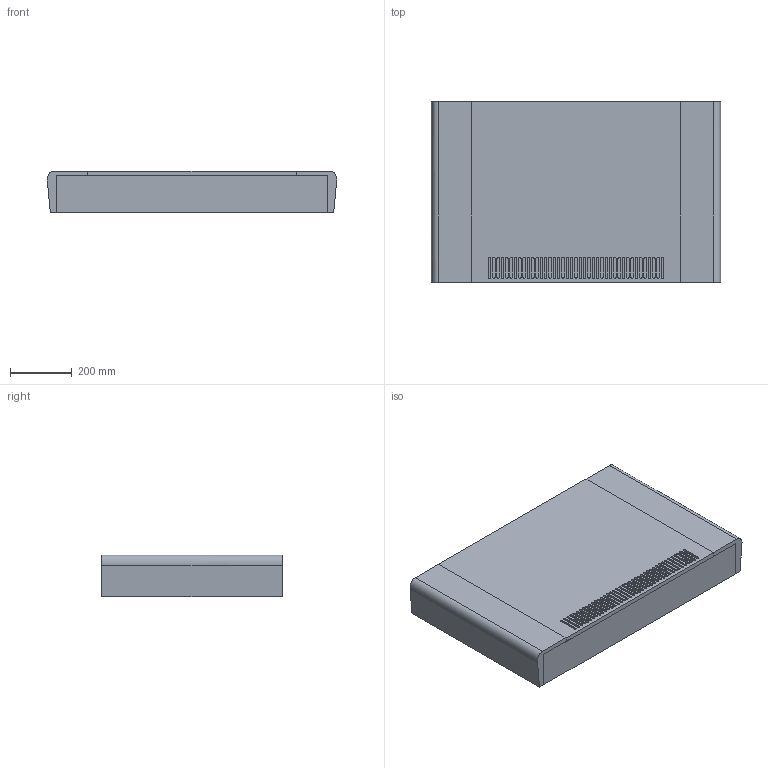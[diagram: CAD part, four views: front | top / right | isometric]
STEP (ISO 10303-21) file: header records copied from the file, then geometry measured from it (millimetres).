
FILE_DESCRIPTION (( 'STEP AP214' ), '1' );
FILE_NAME ('PFWSL_round_model02_4-pipe_v2.STEP', '2024-11-11T13:48:48', ( '' ), ( '' ), 'SwSTEP 2.0', 'SolidWorks 2023', '' );
FILE_SCHEMA (( 'AUTOMOTIVE_DESIGN' ));
Length unit declared in the file: inch
Products named in the file (1): PFWSL_round_model02_4-pipe_v2
Bounding box: 935 x 582.61 x 134.94 mm (x, y, z)
Volume: 52013157.3 mm3; surface area: 2949605.8 mm2
Topology: 25 solids, 25 shells, 492 faces, 1264 edges, 840 vertices
Faces by surface type: plane 304, cylinder 178, torus 8, bspline 2
Entity records: 15543 total; most frequent: CARTESIAN_POINT 2623, DIRECTION 2614, ORIENTED_EDGE 2528, EDGE_CURVE 1264, VECTOR 888, LINE 888, AXIS2_PLACEMENT_3D 863, VERTEX_POINT 840
